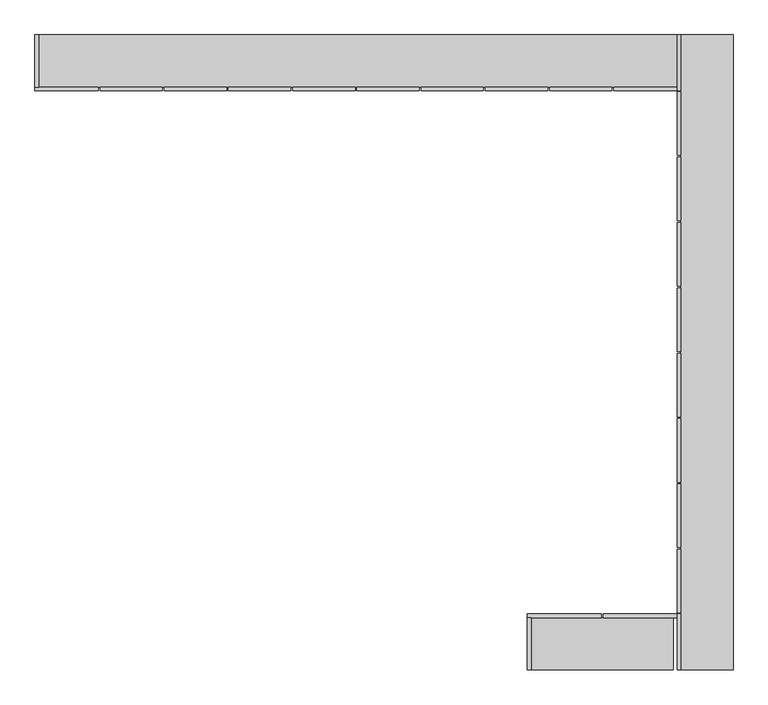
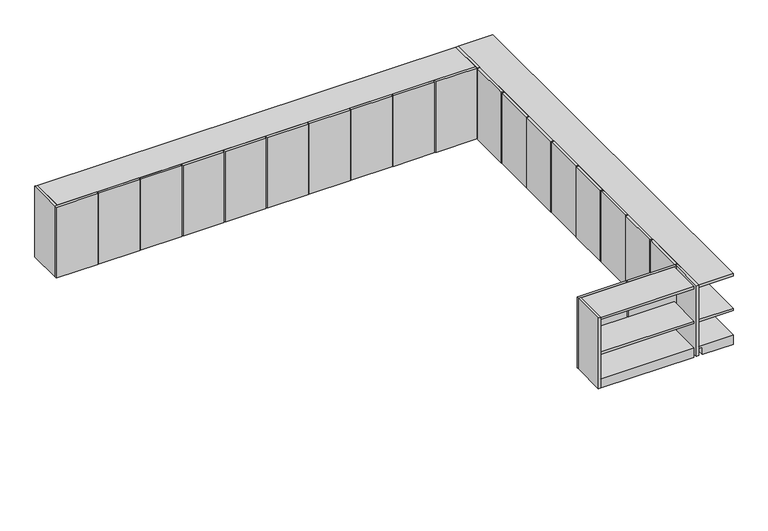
"""IFC4 building model written with IfcOpenShell, lengths in millimetres: furniture geometry, ARQ_MOB_AEREOS_COCINA : AEREOS_COCINA."""

from ifc_helpers import new_model, si_unit, frame, origin, place, context, project, spatial, polyline, outline, extrude, source, transform, mapped, element, save


def furniture_0b69f997(model_context):
    return source(origin(), model_context, "Body", "SweptSolid", [
        extrude(outline(polyline([(13925.5015264, -6790.6055729), (13925.5015264, -6510.6055729), (13945.5015264, -6510.6055729), (13945.5015264, -6790.6055729), (13925.5015264, -6790.6055729)])), frame((0.0, 0.0, 1500.0), z_axis=(0.0, 0.0, 1.0), x_axis=(1.0, 0.0, 0.0)), (0.0, 0.0, 1.0), 610.0),
        extrude(outline(polyline([(11289.9815264, -3670.6637592), (11289.9815264, -3390.6637592), (11309.9815264, -3390.6637592), (11309.9815264, -3670.6637592), (11289.9815264, -3670.6637592)])), frame((0.0, 0.0, 1500.0), z_axis=(0.0, 0.0, 1.0), x_axis=(1.0, 0.0, 0.0)), (0.0, 0.0, 1.0), 610.0),
        extrude(outline(polyline([(14725.5015264, -3690.6637592), (14725.5015264, -3390.6637592), (14745.5015264, -3390.6637592), (14745.5015264, -3690.6637592), (14725.5015264, -3690.6637592)])), frame((0.0, 0.0, 1500.0), z_axis=(0.0, 0.0, 1.0), x_axis=(1.0, 0.0, 0.0)), (0.0, 0.0, 1.0), 610.0),
        extrude(outline(polyline([(14725.5015264, -6790.6055729), (14725.5015264, -6490.6055729), (14745.5015264, -6490.6055729), (14745.5015264, -6790.6055729), (14725.5015264, -6790.6055729)])), frame((0.0, 0.0, 1500.0), z_axis=(0.0, 0.0, 1.0), x_axis=(1.0, 0.0, 0.0)), (0.0, 0.0, 1.0), 610.0),
        extrude(outline(polyline([(14725.5015264, -4035.6564859), (14725.5015264, -3695.6637592), (14745.5015264, -3695.6637592), (14745.5015264, -4035.6564859), (14725.5015264, -4035.6564859)])), frame((0.0, 0.0, 1500.0), z_axis=(0.0, 0.0, 1.0), x_axis=(1.0, 0.0, 0.0)), (0.0, 0.0, 1.0), 610.0),
        extrude(outline(polyline([(14725.5015264, -6485.6055729), (14725.5015264, -6145.6128462), (14745.5015264, -6145.6128462), (14745.5015264, -6485.6055729), (14725.5015264, -6485.6055729)])), frame((0.0, 0.0, 1500.0), z_axis=(0.0, 0.0, 1.0), x_axis=(1.0, 0.0, 0.0)), (0.0, 0.0, 1.0), 610.0),
        extrude(outline(polyline([(14725.5015264, -4385.6492126), (14725.5015264, -4045.6564859), (14745.5015264, -4045.6564859), (14745.5015264, -4385.6492126), (14725.5015264, -4385.6492126)])), frame((0.0, 0.0, 1500.0), z_axis=(0.0, 0.0, 1.0), x_axis=(1.0, 0.0, 0.0)), (0.0, 0.0, 1.0), 610.0),
        extrude(outline(polyline([(14725.5015264, -4735.6419394), (14725.5015264, -4395.6492126), (14745.5015264, -4395.6492126), (14745.5015264, -4735.6419394), (14725.5015264, -4735.6419394)])), frame((0.0, 0.0, 1500.0), z_axis=(0.0, 0.0, 1.0), x_axis=(1.0, 0.0, 0.0)), (0.0, 0.0, 1.0), 610.0),
        extrude(outline(polyline([(14725.5015264, -5085.6346661), (14725.5015264, -4745.6419394), (14745.5015264, -4745.6419394), (14745.5015264, -5085.6346661), (14725.5015264, -5085.6346661)])), frame((0.0, 0.0, 1500.0), z_axis=(0.0, 0.0, 1.0), x_axis=(1.0, 0.0, 0.0)), (0.0, 0.0, 1.0), 610.0),
        extrude(outline(polyline([(14725.5015264, -5435.6273928), (14725.5015264, -5095.6346661), (14745.5015264, -5095.6346661), (14745.5015264, -5435.6273928), (14725.5015264, -5435.6273928)])), frame((0.0, 0.0, 1500.0), z_axis=(0.0, 0.0, 1.0), x_axis=(1.0, 0.0, 0.0)), (0.0, 0.0, 1.0), 610.0),
        extrude(outline(polyline([(14725.5015264, -5785.6201195), (14725.5015264, -5445.6273928), (14745.5015264, -5445.6273928), (14745.5015264, -5785.6201195), (14725.5015264, -5785.6201195)])), frame((0.0, 0.0, 1500.0), z_axis=(0.0, 0.0, 1.0), x_axis=(1.0, 0.0, 0.0)), (0.0, 0.0, 1.0), 610.0),
        extrude(outline(polyline([(14725.5015264, -6135.6128462), (14725.5015264, -5795.6201195), (14745.5015264, -5795.6201195), (14745.5015264, -6135.6128462), (14725.5015264, -6135.6128462)])), frame((0.0, 0.0, 1500.0), z_axis=(0.0, 0.0, 1.0), x_axis=(1.0, 0.0, 0.0)), (0.0, 0.0, 1.0), 610.0),
        extrude(outline(polyline([(14330.5015264, -6490.6055729), (14725.5015264, -6490.6055729), (14725.5015264, -6510.6055729), (14330.5015264, -6510.6055729), (14330.5015264, -6490.6055729)])), frame((0.0, 0.0, 1500.0), z_axis=(0.0, 0.0, 1.0), x_axis=(1.0, 0.0, 0.0)), (0.0, 0.0, 1.0), 610.0),
        extrude(outline(polyline([(13925.5015264, -6490.6055729), (14320.5015264, -6490.6055729), (14320.5015264, -6510.6055729), (13925.5015264, -6510.6055729), (13925.5015264, -6490.6055729)])), frame((0.0, 0.0, 1500.0), z_axis=(0.0, 0.0, 1.0), x_axis=(1.0, 0.0, 0.0)), (0.0, 0.0, 1.0), 610.0),
        extrude(outline(polyline([(14725.5015264, -3690.6637592), (14386.94915, -3690.6637592), (14386.94915, -3670.6637592), (14725.5015264, -3670.6637592), (14725.5015264, -3690.6637592)])), frame((0.0, 0.0, 1500.0), z_axis=(0.0, 0.0, 1.0), x_axis=(1.0, 0.0, 0.0)), (0.0, 0.0, 1.0), 610.0),
        extrude(outline(polyline([(14376.94915, -3690.6637592), (14043.3967736, -3690.6637592), (14043.3967736, -3670.6637592), (14376.94915, -3670.6637592), (14376.94915, -3690.6637592)])), frame((0.0, 0.0, 1500.0), z_axis=(0.0, 0.0, 1.0), x_axis=(1.0, 0.0, 0.0)), (0.0, 0.0, 1.0), 610.0),
        extrude(outline(polyline([(11972.0825153, -3690.6637592), (11638.5301389, -3690.6637592), (11638.5301389, -3670.6637592), (11972.0825153, -3670.6637592), (11972.0825153, -3690.6637592)])), frame((0.0, 0.0, 1500.0), z_axis=(0.0, 0.0, 1.0), x_axis=(1.0, 0.0, 0.0)), (0.0, 0.0, 1.0), 610.0),
        extrude(outline(polyline([(11628.5301389, -3690.6637592), (11289.9777625, -3690.6637592), (11289.9777625, -3670.6637592), (11628.5301389, -3670.6637592), (11628.5301389, -3690.6637592)])), frame((0.0, 0.0, 1500.0), z_axis=(0.0, 0.0, 1.0), x_axis=(1.0, 0.0, 0.0)), (0.0, 0.0, 1.0), 610.0),
        extrude(outline(polyline([(12315.6348917, -3690.6637592), (11982.0825153, -3690.6637592), (11982.0825153, -3670.6637592), (12315.6348917, -3670.6637592), (12315.6348917, -3690.6637592)])), frame((0.0, 0.0, 1500.0), z_axis=(0.0, 0.0, 1.0), x_axis=(1.0, 0.0, 0.0)), (0.0, 0.0, 1.0), 610.0),
        extrude(outline(polyline([(12659.187268, -3690.6637592), (12325.6348917, -3690.6637592), (12325.6348917, -3670.6637592), (12659.187268, -3670.6637592), (12659.187268, -3690.6637592)])), frame((0.0, 0.0, 1500.0), z_axis=(0.0, 0.0, 1.0), x_axis=(1.0, 0.0, 0.0)), (0.0, 0.0, 1.0), 610.0),
        extrude(outline(polyline([(13002.7396444, -3690.6637592), (12669.187268, -3690.6637592), (12669.187268, -3670.6637592), (13002.7396444, -3670.6637592), (13002.7396444, -3690.6637592)])), frame((0.0, 0.0, 1500.0), z_axis=(0.0, 0.0, 1.0), x_axis=(1.0, 0.0, 0.0)), (0.0, 0.0, 1.0), 610.0),
        extrude(outline(polyline([(13346.2920208, -3690.6637592), (13012.7396444, -3690.6637592), (13012.7396444, -3670.6637592), (13346.2920208, -3670.6637592), (13346.2920208, -3690.6637592)])), frame((0.0, 0.0, 1500.0), z_axis=(0.0, 0.0, 1.0), x_axis=(1.0, 0.0, 0.0)), (0.0, 0.0, 1.0), 610.0),
        extrude(outline(polyline([(13689.8443972, -3690.6637592), (13356.2920208, -3690.6637592), (13356.2920208, -3670.6637592), (13689.8443972, -3670.6637592), (13689.8443972, -3690.6637592)])), frame((0.0, 0.0, 1500.0), z_axis=(0.0, 0.0, 1.0), x_axis=(1.0, 0.0, 0.0)), (0.0, 0.0, 1.0), 610.0),
        extrude(outline(polyline([(14033.3967736, -3690.6637592), (13699.8443972, -3690.6637592), (13699.8443972, -3670.6637592), (14033.3967736, -3670.6637592), (14033.3967736, -3690.6637592)])), frame((0.0, 0.0, 1500.0), z_axis=(0.0, 0.0, 1.0), x_axis=(1.0, 0.0, 0.0)), (0.0, 0.0, 1.0), 610.0),
        extrude(outline(polyline([(1500.0, 15025.5015264), (1580.0, 15025.5015264), (1580.0, 14745.5015264), (1560.0, 14745.5015264), (1560.0, 14775.5015264), (1500.0, 14775.5015264), (1500.0, 15025.5015264)])), frame((0.0, -6790.6637592, 0.0), z_axis=(0.0, 1.0, 0.0), x_axis=(0.0, 0.0, 1.0)), (0.0, 0.0, 1.0), 3400.0),
        extrude(outline(polyline([(15025.5015264, -6790.6637592), (14745.5015264, -6790.6637592), (14745.5015264, -3390.6637592), (15025.5015264, -3390.6637592), (15025.5015264, -6790.6637592)])), frame((0.0, 0.0, 2090.0), z_axis=(0.0, 0.0, 1.0), x_axis=(1.0, 0.0, 0.0)), (0.0, 0.0, 1.0), 20.0),
        extrude(outline(polyline([(15025.5015264, -6790.6637592), (14745.5015264, -6790.6637592), (14745.5015264, -3390.6637592), (15025.5015264, -3390.6637592), (15025.5015264, -6790.6637592)])), frame((0.0, 0.0, 1790.0), z_axis=(0.0, 0.0, 1.0), x_axis=(1.0, 0.0, 0.0)), (0.0, 0.0, 1.0), 20.0),
        extrude(outline(polyline([(-6790.6055729, 1500.0), (-6790.6055729, 1580.0), (-6510.6055729, 1580.0), (-6510.6055729, 1560.0), (-6540.6055729, 1560.0), (-6540.6055729, 1500.0), (-6790.6055729, 1500.0)])), frame((13945.5015264, 0.0, 0.0), z_axis=(1.0, 0.0, 0.0), x_axis=(0.0, 1.0, 0.0)), (0.0, 0.0, 1.0), 760.0),
        extrude(outline(polyline([(13945.5015264, -6790.6055729), (13945.5015264, -6510.6055729), (14705.5015264, -6510.6055729), (14705.5015264, -6790.6055729), (13945.5015264, -6790.6055729)])), frame((0.0, 0.0, 2090.0), z_axis=(0.0, 0.0, 1.0), x_axis=(1.0, 0.0, 0.0)), (0.0, 0.0, 1.0), 20.0),
        extrude(outline(polyline([(13945.5015264, -6790.6055729), (13945.5015264, -6510.6055729), (14705.5015264, -6510.6055729), (14705.5015264, -6790.6055729), (13945.5015264, -6790.6055729)])), frame((0.0, 0.0, 1790.0), z_axis=(0.0, 0.0, 1.0), x_axis=(1.0, 0.0, 0.0)), (0.0, 0.0, 1.0), 20.0),
        extrude(outline(polyline([(-3390.6637592, 1500.0), (-3640.6637592, 1500.0), (-3640.6637592, 1560.0), (-3670.6637592, 1560.0), (-3670.6637592, 1580.0), (-3390.6637592, 1580.0), (-3390.6637592, 1500.0)])), frame((11309.9815264, 0.0, 0.0), z_axis=(1.0, 0.0, 0.0), x_axis=(0.0, 1.0, 0.0)), (0.0, 0.0, 1.0), 3415.52),
        extrude(outline(polyline([(11309.9815264, -3670.6637592), (11309.9815264, -3390.6637592), (14725.5015264, -3390.6637592), (14725.5015264, -3670.6637592), (11309.9815264, -3670.6637592)])), frame((0.0, 0.0, 2090.0), z_axis=(0.0, 0.0, 1.0), x_axis=(1.0, 0.0, 0.0)), (0.0, 0.0, 1.0), 20.0),
        extrude(outline(polyline([(11309.9815264, -3670.6637592), (11309.9815264, -3390.6637592), (14725.5015264, -3390.6637592), (14725.5015264, -3670.6637592), (11309.9815264, -3670.6637592)])), frame((0.0, 0.0, 1790.0), z_axis=(0.0, 0.0, 1.0), x_axis=(1.0, 0.0, 0.0)), (0.0, 0.0, 1.0), 20.0),
    ])


if __name__ == "__main__":
    model = new_model("IFC4")
    model_context = context("Model", 3, world=origin())
    ifc_project = project(units=[si_unit("LENGTHUNIT", "METRE", prefix="MILLI")], contexts=[model_context])
    site = spatial("IfcSite", under=ifc_project)
    building = spatial("IfcBuilding", under=site)
    placement = place(None, origin())
    furniture_shape = furniture_0b69f997(model_context)
    element("IfcFurniture", 1, ObjectType="ARQ_MOB_AEREOS_COCINA : AEREOS_COCINA", at=placement, inside=building, context=model_context, shape_type="MappedRepresentation", body=[
        mapped(furniture_shape, transform((0.0, 0.0, 0.0), x_axis=(1.0, 0.0, 0.0), y_axis=(0.0, 1.0, 0.0), z_axis=(0.0, 0.0, 1.0))),
    ])
    save(model, "model.ifc")
